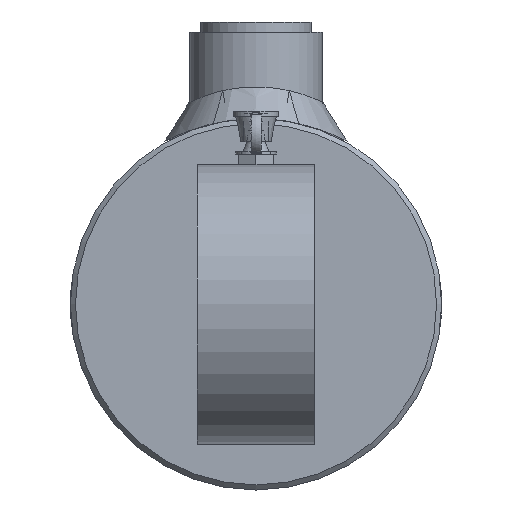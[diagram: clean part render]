
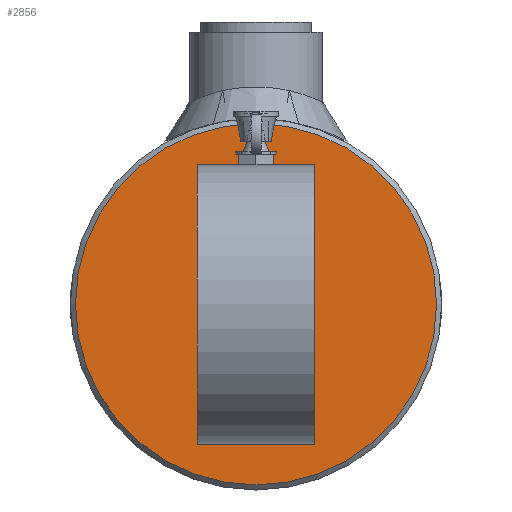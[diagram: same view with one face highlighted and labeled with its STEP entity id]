
A CAD part, left-side view. The second image highlights one B-rep face of the part: STEP entity #2856.
In plain terms, the highlighted planar face has unit normal (-1, 0, 0).
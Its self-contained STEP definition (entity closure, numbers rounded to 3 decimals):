
#2856 = ADVANCED_FACE( '', ( #6762 ), #6763, .T. );
#6762 = FACE_OUTER_BOUND( '', #8484, .T. );
#6763 = PLANE( '', #8485 );
#8484 = EDGE_LOOP( '', ( #9342 ) );
#8485 = AXIS2_PLACEMENT_3D( '', #9343, #9344, #9345 );
#9342 = ORIENTED_EDGE( '', *, *, #10383, .T. );
#9343 = CARTESIAN_POINT( '', ( -12., 0., 0. ) );
#9344 = DIRECTION( '', ( -1., 0., 0. ) );
#9345 = DIRECTION( '', ( 0., -1., 0. ) );
#10383 = EDGE_CURVE( '', #12485, #12485, #12486, .T. );
#12485 = VERTEX_POINT( '', #13709 );
#12486 = CIRCLE( '', #13710, 35.5 );
#13709 = CARTESIAN_POINT( '', ( -12., -35.5, 0. ) );
#13710 = AXIS2_PLACEMENT_3D( '', #13935, #13936, #13937 );
#13935 = CARTESIAN_POINT( '', ( -12., 0., 0. ) );
#13936 = DIRECTION( '', ( -1., 0., 0. ) );
#13937 = DIRECTION( '', ( 0., -1., 0. ) );
